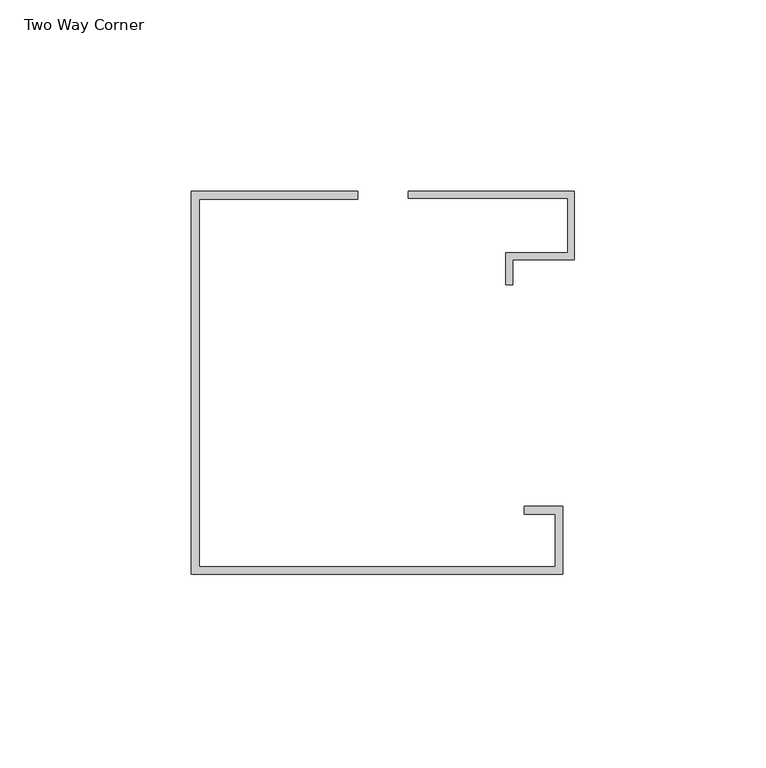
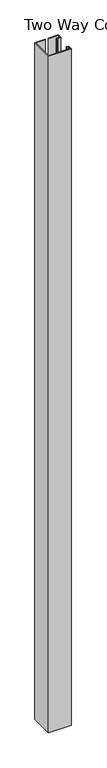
"""IFC4 building model written with IfcOpenShell, lengths in millimetres: proxy geometry, Connection-Corner-Teknion-OptosLP-Two_Way_FZCY2E_E : Two Way Corner."""

from ifc_helpers import new_model, si_unit, origin, origin_with_axes, place, context, project, spatial, polyline, outline, extrude, source, transform, mapped, element, save


def two_way_corner_f09944fd(model_context):
    return source(origin(), model_context, "Body", "SweptSolid", [
        extrude(outline(polyline([(47.3892022, -31.9785998), (47.3892022, -49.8094), (-49.610797, -49.8094), (-49.610797, 50.1904003), (-6.1767964, 50.1904003), (-6.1767964, 48.2281242), (-47.5787964, 48.2281242), (-47.5787964, -47.7773994), (45.3572053, -47.7773994), (45.3572053, -34.0613984), (37.229203, -34.0613984), (37.229203, -31.9785998), (47.3892022, -31.9785998)])), origin_with_axes(), (0.0, 0.0, 1.0), 3048.0),
        extrude(outline(polyline([(32.4822038, 25.8064996), (32.4822038, 34.1885015), (48.6112054, 34.1885015), (48.6112054, 48.4125018), (6.955204, 48.4125018), (6.955204, 50.1905009), (50.3892045, 50.1905009), (50.3892045, 32.4104987), (34.2602026, 32.4104987), (34.2602026, 25.8064996), (32.4822038, 25.8064996)])), origin_with_axes(), (0.0, 0.0, 1.0), 3048.0),
    ])


if __name__ == "__main__":
    model = new_model("IFC4")
    model_context = context("Model", 3, world=origin())
    ifc_project = project(units=[si_unit("LENGTHUNIT", "METRE", prefix="MILLI")], contexts=[model_context])
    site = spatial("IfcSite", under=ifc_project)
    building = spatial("IfcBuilding", under=site)
    placement = place(None, origin())
    two_way_corner_shape = two_way_corner_f09944fd(model_context)
    element("IfcBuildingElementProxy", 1, Name="Connection-Corner-Teknion-OptosLP-Two_Way_FZCY2E_E : Two Way Corner", ObjectType="Connection-Corner-Teknion-OptosLP-Two_Way_FZCY2E_E : Two Way Corner", at=placement, inside=building, context=model_context, shape_type="MappedRepresentation", body=[
        mapped(two_way_corner_shape, transform((0.0, 0.0, 0.0), x_axis=(1.0, 0.0, 0.0), y_axis=(0.0, 1.0, 0.0), z_axis=(0.0, 0.0, 1.0))),
    ])
    save(model, "model.ifc")
